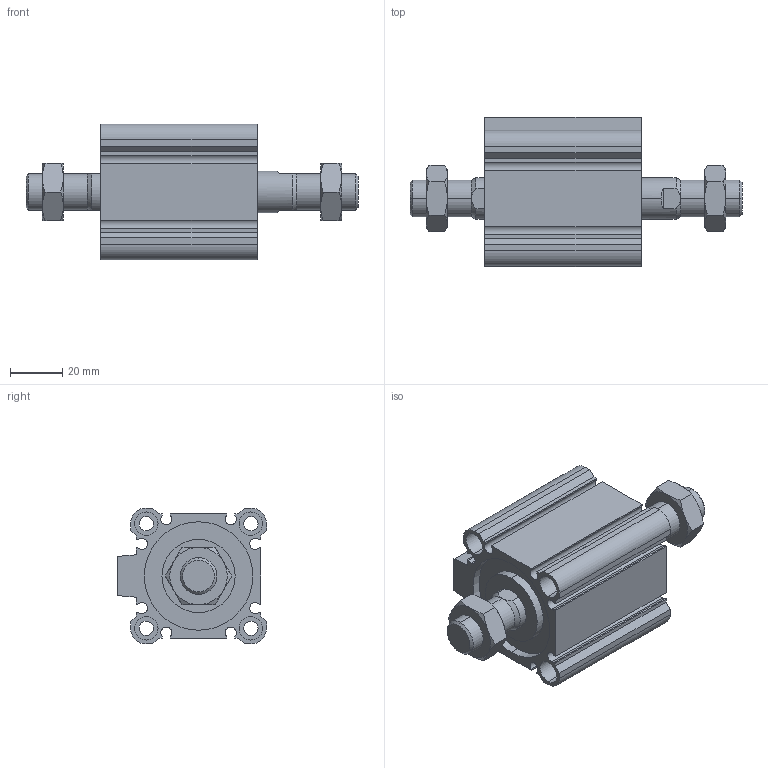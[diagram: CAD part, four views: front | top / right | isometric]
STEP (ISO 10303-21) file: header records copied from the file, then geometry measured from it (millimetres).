
FILE_DESCRIPTION (( 'STEP AP203' ), '1' );
FILE_NAME ('CCMB40-10M-P.STEP', '2020-08-10T11:37:25', ( '' ), ( '' ), 'SwSTEP 2.0', 'SolidWorks 2019', '' );
FILE_SCHEMA (( 'CONFIG_CONTROL_DESIGN' ));
Length unit declared in the file: millimetre
Products named in the file (1): CCMB40-10M-P
Bounding box: 127 x 57 x 52 mm (x, y, z)
Volume: 134348.2 mm3; surface area: 49486.9 mm2
Topology: 4 solids, 4 shells, 216 faces, 522 edges, 332 vertices
Faces by surface type: plane 94, cylinder 78, cone 44
Entity records: 7009 total; most frequent: CARTESIAN_POINT 1819, DIRECTION 1088, ORIENTED_EDGE 1044, EDGE_CURVE 522, AXIS2_PLACEMENT_3D 413, VERTEX_POINT 332, LINE 262, VECTOR 262
